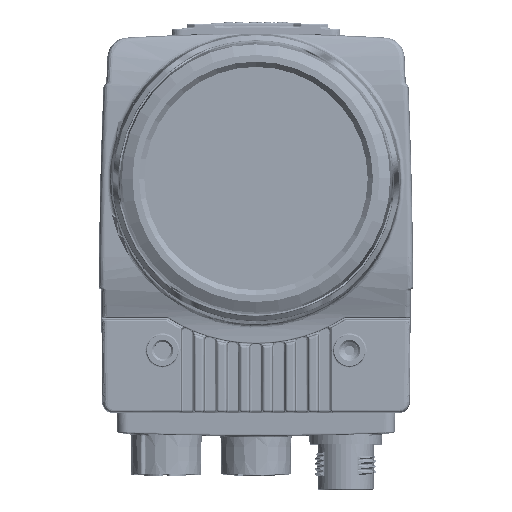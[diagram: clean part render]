
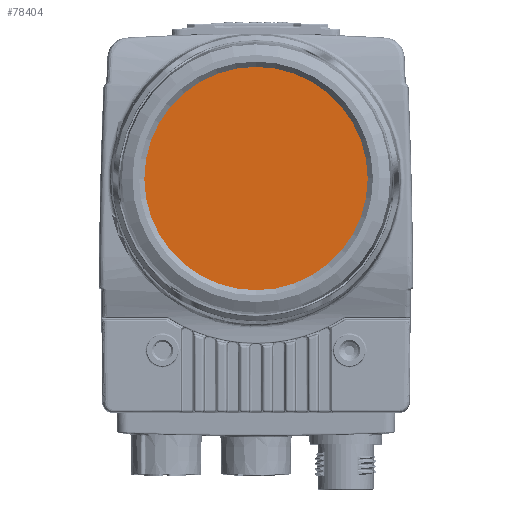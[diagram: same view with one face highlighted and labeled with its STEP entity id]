
A CAD part, top view. The second image highlights one B-rep face of the part: STEP entity #78404.
In plain terms, the highlighted planar face has unit normal (0, 0, 1).
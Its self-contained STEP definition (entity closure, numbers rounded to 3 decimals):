
#31512 = FACE_OUTER_BOUND ( 'NONE', #320580, .T. ) ;
#41002 = ORIENTED_EDGE ( 'NONE', *, *, #121854, .T. ) ;
#70369 = ORIENTED_EDGE ( 'NONE', *, *, #490956, .T. ) ;
#78404 = ADVANCED_FACE ( 'NONE', ( #31512 ), #360896, .T. ) ;
#111992 = DIRECTION ( 'NONE',  ( 0., 0., 1. ) ) ;
#121854 = EDGE_CURVE ( 'NONE', #405181, #524183, #329176, .T. ) ;
#145983 = CARTESIAN_POINT ( 'NONE',  ( 23.703, -2.859, 49.45 ) ) ;
#159280 = CARTESIAN_POINT ( 'NONE',  ( 0., 0., 49.45 ) ) ;
#161282 = CARTESIAN_POINT ( 'NONE',  ( 0., 0., 49.45 ) ) ;
#171687 = AXIS2_PLACEMENT_3D ( 'NONE', #161282, #451892, #202983 ) ;
#177361 = AXIS2_PLACEMENT_3D ( 'NONE', #159280, #449857, #200995 ) ;
#191824 = CIRCLE ( 'NONE', #177361, 23.875 ) ;
#200995 = DIRECTION ( 'NONE',  ( -0.993, 0.12, 0. ) ) ;
#202983 = DIRECTION ( 'NONE',  ( -0.993, 0.12, 0. ) ) ;
#277390 = CARTESIAN_POINT ( 'NONE',  ( 0., 0., 49.45 ) ) ;
#320580 = EDGE_LOOP ( 'NONE', ( #70369, #41002 ) ) ;
#329176 = CIRCLE ( 'NONE', #171687, 23.875 ) ;
#341924 = AXIS2_PLACEMENT_3D ( 'NONE', #277390, #111992, #402527 ) ;
#360896 = PLANE ( 'NONE',  #341924 ) ;
#402527 = DIRECTION ( 'NONE',  ( -0.993, 0.12, 0. ) ) ;
#405181 = VERTEX_POINT ( 'NONE', #434619 ) ;
#434619 = CARTESIAN_POINT ( 'NONE',  ( -23.703, 2.859, 49.45 ) ) ;
#449857 = DIRECTION ( 'NONE',  ( 0., 0., 1. ) ) ;
#451892 = DIRECTION ( 'NONE',  ( 0., 0., 1. ) ) ;
#490956 = EDGE_CURVE ( 'NONE', #524183, #405181, #191824, .T. ) ;
#524183 = VERTEX_POINT ( 'NONE', #145983 ) ;
